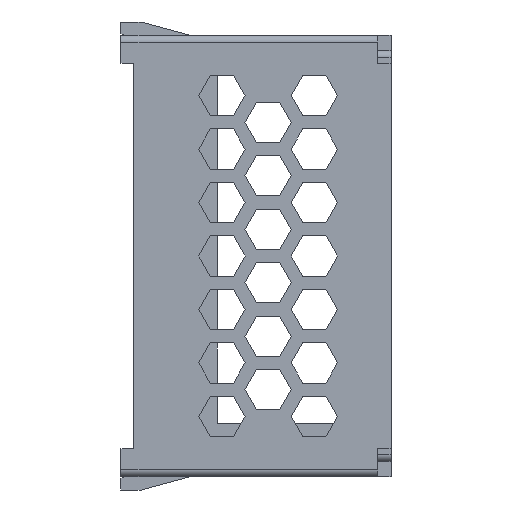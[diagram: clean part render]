
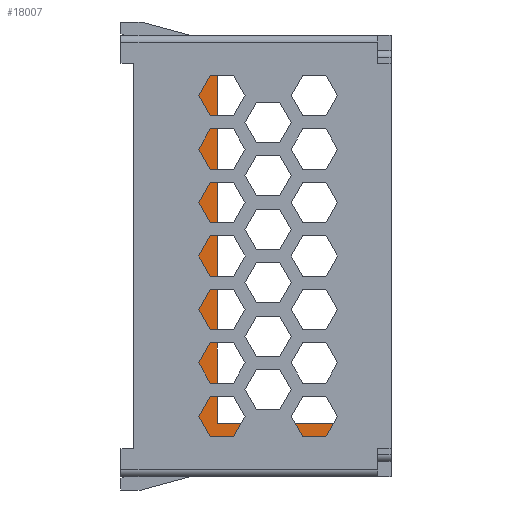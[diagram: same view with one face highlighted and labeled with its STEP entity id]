
A CAD part, left-side view. The second image highlights one B-rep face of the part: STEP entity #18007.
In plain terms, the highlighted planar face has unit normal (-1, 0, 0).
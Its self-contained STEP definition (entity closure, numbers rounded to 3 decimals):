
#63 = VERTEX_POINT ( 'NONE', #11636 ) ;
#389 = LINE ( 'NONE', #19008, #21087 ) ;
#409 = LINE ( 'NONE', #6618, #9161 ) ;
#575 = EDGE_CURVE ( 'NONE', #5755, #12906, #8746, .T. ) ;
#1073 = DIRECTION ( 'NONE',  ( 0., 0., -1. ) ) ;
#1084 = CARTESIAN_POINT ( 'NONE',  ( 45., 36.4, 28. ) ) ;
#1351 = CARTESIAN_POINT ( 'NONE',  ( 45., 36.4, -33. ) ) ;
#1425 = EDGE_CURVE ( 'NONE', #22610, #19440, #8288, .T. ) ;
#1941 = CARTESIAN_POINT ( 'NONE',  ( 45., 2., 26.5 ) ) ;
#2331 = EDGE_CURVE ( 'NONE', #7345, #63, #12945, .T. ) ;
#2930 = CARTESIAN_POINT ( 'NONE',  ( 45., 36.4, 26.85 ) ) ;
#3415 = DIRECTION ( 'NONE',  ( 0., 0., -1. ) ) ;
#3889 = VERTEX_POINT ( 'NONE', #12102 ) ;
#4162 = EDGE_LOOP ( 'NONE', ( #27275, #13135, #21453, #13710, #12325, #6682, #9909, #14978 ) ) ;
#4194 = VECTOR ( 'NONE', #3415, 1000. ) ;
#4481 = VECTOR ( 'NONE', #27237, 1000. ) ;
#4626 = VECTOR ( 'NONE', #8265, 1000. ) ;
#5026 = VECTOR ( 'NONE', #12259, 1000. ) ;
#5328 = VERTEX_POINT ( 'NONE', #19743 ) ;
#5755 = VERTEX_POINT ( 'NONE', #24463 ) ;
#6258 = DIRECTION ( 'NONE',  ( 0., -1., 0. ) ) ;
#6618 = CARTESIAN_POINT ( 'NONE',  ( 45., 36.4, 26.85 ) ) ;
#6682 = ORIENTED_EDGE ( 'NONE', *, *, #7071, .F. ) ;
#6834 = EDGE_CURVE ( 'NONE', #5328, #5755, #8888, .T. ) ;
#7071 = EDGE_CURVE ( 'NONE', #20294, #18452, #409, .T. ) ;
#7345 = VERTEX_POINT ( 'NONE', #14266 ) ;
#7408 = CARTESIAN_POINT ( 'NONE',  ( 45., 36.4, -30.85 ) ) ;
#7645 = LINE ( 'NONE', #9640, #27669 ) ;
#7837 = VECTOR ( 'NONE', #18347, 1000. ) ;
#7859 = EDGE_CURVE ( 'NONE', #63, #18452, #23043, .T. ) ;
#8069 = CARTESIAN_POINT ( 'NONE',  ( 45., 34.5, -30.85 ) ) ;
#8265 = DIRECTION ( 'NONE',  ( 0., 0., 1. ) ) ;
#8288 = LINE ( 'NONE', #12701, #26273 ) ;
#8746 = LINE ( 'NONE', #19908, #20000 ) ;
#8888 = LINE ( 'NONE', #1351, #18071 ) ;
#8924 = ORIENTED_EDGE ( 'NONE', *, *, #16882, .T. ) ;
#9161 = VECTOR ( 'NONE', #27923, 1000. ) ;
#9167 = VERTEX_POINT ( 'NONE', #8069 ) ;
#9376 = EDGE_CURVE ( 'NONE', #5328, #9167, #25171, .T. ) ;
#9640 = CARTESIAN_POINT ( 'NONE',  ( 45., 0., -33. ) ) ;
#9909 = ORIENTED_EDGE ( 'NONE', *, *, #11321, .F. ) ;
#10068 = EDGE_CURVE ( 'NONE', #7345, #12906, #7645, .T. ) ;
#10204 = CARTESIAN_POINT ( 'NONE',  ( 45., 36.4, -33. ) ) ;
#10486 = DIRECTION ( 'NONE',  ( -1., 0., 0. ) ) ;
#11321 = EDGE_CURVE ( 'NONE', #9167, #20294, #24637, .T. ) ;
#11636 = CARTESIAN_POINT ( 'NONE',  ( 45., 36.4, 28. ) ) ;
#12102 = CARTESIAN_POINT ( 'NONE',  ( 45., 22., -27. ) ) ;
#12259 = DIRECTION ( 'NONE',  ( 0., 0., -1. ) ) ;
#12306 = LINE ( 'NONE', #14181, #4481 ) ;
#12325 = ORIENTED_EDGE ( 'NONE', *, *, #7859, .T. ) ;
#12403 = PLANE ( 'NONE',  #16109 ) ;
#12577 = DIRECTION ( 'NONE',  ( 0., 0., 1. ) ) ;
#12701 = CARTESIAN_POINT ( 'NONE',  ( 45., 2., 26.5 ) ) ;
#12716 = DIRECTION ( 'NONE',  ( 0., 1., 0. ) ) ;
#12906 = VERTEX_POINT ( 'NONE', #18384 ) ;
#12945 = LINE ( 'NONE', #1084, #7837 ) ;
#13135 = ORIENTED_EDGE ( 'NONE', *, *, #575, .T. ) ;
#13710 = ORIENTED_EDGE ( 'NONE', *, *, #2331, .T. ) ;
#13818 = FACE_OUTER_BOUND ( 'NONE', #4162, .T. ) ;
#14181 = CARTESIAN_POINT ( 'NONE',  ( 45., 22., 26.5 ) ) ;
#14266 = CARTESIAN_POINT ( 'NONE',  ( 45., 0., 28. ) ) ;
#14473 = CARTESIAN_POINT ( 'NONE',  ( 45., 2., 26.5 ) ) ;
#14789 = VERTEX_POINT ( 'NONE', #21180 ) ;
#14978 = ORIENTED_EDGE ( 'NONE', *, *, #9376, .F. ) ;
#14991 = CARTESIAN_POINT ( 'NONE',  ( 45., 34.5, 26.85 ) ) ;
#16109 = AXIS2_PLACEMENT_3D ( 'NONE', #10204, #10486, #12577 ) ;
#16163 = FACE_BOUND ( 'NONE', #16362, .T. ) ;
#16362 = EDGE_LOOP ( 'NONE', ( #27319, #17692, #17821, #8924 ) ) ;
#16402 = LINE ( 'NONE', #14473, #4194 ) ;
#16882 = EDGE_CURVE ( 'NONE', #3889, #22610, #12306, .T. ) ;
#17692 = ORIENTED_EDGE ( 'NONE', *, *, #23980, .T. ) ;
#17821 = ORIENTED_EDGE ( 'NONE', *, *, #27570, .T. ) ;
#18007 = ADVANCED_FACE ( 'NONE', ( #13818, #16163 ), #12403, .T. ) ;
#18071 = VECTOR ( 'NONE', #1073, 1000. ) ;
#18347 = DIRECTION ( 'NONE',  ( 0., 1., 0. ) ) ;
#18384 = CARTESIAN_POINT ( 'NONE',  ( 45., 0., -32. ) ) ;
#18452 = VERTEX_POINT ( 'NONE', #2930 ) ;
#19008 = CARTESIAN_POINT ( 'NONE',  ( 45., 2., -27. ) ) ;
#19217 = CARTESIAN_POINT ( 'NONE',  ( 45., 34.5, -33. ) ) ;
#19440 = VERTEX_POINT ( 'NONE', #1941 ) ;
#19743 = CARTESIAN_POINT ( 'NONE',  ( 45., 36.4, -30.85 ) ) ;
#19908 = CARTESIAN_POINT ( 'NONE',  ( 45., 0., -32. ) ) ;
#20000 = VECTOR ( 'NONE', #24696, 1000. ) ;
#20154 = DIRECTION ( 'NONE',  ( 0., -1., 0. ) ) ;
#20294 = VERTEX_POINT ( 'NONE', #14991 ) ;
#20504 = DIRECTION ( 'NONE',  ( 0., 0., -1. ) ) ;
#21087 = VECTOR ( 'NONE', #12716, 1000. ) ;
#21180 = CARTESIAN_POINT ( 'NONE',  ( 45., 2., -27. ) ) ;
#21453 = ORIENTED_EDGE ( 'NONE', *, *, #10068, .F. ) ;
#22610 = VERTEX_POINT ( 'NONE', #26032 ) ;
#23043 = LINE ( 'NONE', #25232, #5026 ) ;
#23519 = VECTOR ( 'NONE', #20154, 1000. ) ;
#23980 = EDGE_CURVE ( 'NONE', #19440, #14789, #16402, .T. ) ;
#24463 = CARTESIAN_POINT ( 'NONE',  ( 45., 36.4, -32. ) ) ;
#24637 = LINE ( 'NONE', #19217, #4626 ) ;
#24696 = DIRECTION ( 'NONE',  ( 0., -1., 0. ) ) ;
#25171 = LINE ( 'NONE', #7408, #23519 ) ;
#25232 = CARTESIAN_POINT ( 'NONE',  ( 45., 36.4, -33. ) ) ;
#26032 = CARTESIAN_POINT ( 'NONE',  ( 45., 22., 26.5 ) ) ;
#26273 = VECTOR ( 'NONE', #6258, 1000. ) ;
#27237 = DIRECTION ( 'NONE',  ( 0., 0., 1. ) ) ;
#27275 = ORIENTED_EDGE ( 'NONE', *, *, #6834, .T. ) ;
#27319 = ORIENTED_EDGE ( 'NONE', *, *, #1425, .T. ) ;
#27570 = EDGE_CURVE ( 'NONE', #14789, #3889, #389, .T. ) ;
#27669 = VECTOR ( 'NONE', #20504, 1000. ) ;
#27923 = DIRECTION ( 'NONE',  ( 0., 1., 0. ) ) ;
